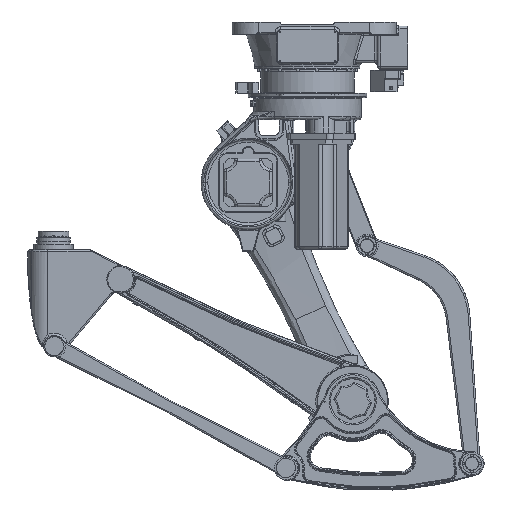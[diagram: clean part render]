
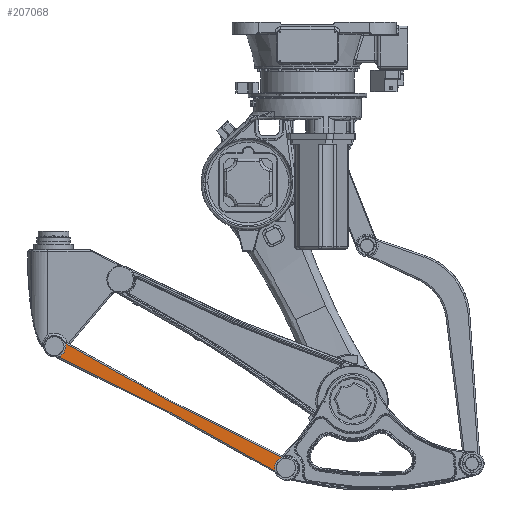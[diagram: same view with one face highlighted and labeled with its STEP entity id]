
A CAD part, front view. The second image highlights one B-rep face of the part: STEP entity #207068.
In plain terms, the highlighted planar face has unit normal (0, -1, 0) as drawn and (-0.004, -1, 0) by its records, which use the part's own axes.
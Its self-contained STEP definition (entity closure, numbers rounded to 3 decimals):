
#2742 = FACE_OUTER_BOUND ( 'NONE', #125656, .T. ) ;
#4308 = VERTEX_POINT ( 'NONE', #4400 ) ;
#4382 = EDGE_CURVE ( 'NONE', #24886, #4308, #148706, .T. ) ;
#4400 = CARTESIAN_POINT ( 'NONE',  ( -85.951, -42.054, -1431.203 ) ) ;
#6528 = CARTESIAN_POINT ( 'NONE',  ( -980.677, -38.447, -1272.64 ) ) ;
#8433 = CARTESIAN_POINT ( 'NONE',  ( -93.325, -42.024, -1438.471 ) ) ;
#10571 = CARTESIAN_POINT ( 'NONE',  ( -97.231, -42.008, -1484.914 ) ) ;
#11865 = CARTESIAN_POINT ( 'NONE',  ( -85.951, -42.054, -1431.203 ) ) ;
#24886 = VERTEX_POINT ( 'NONE', #6528 ) ;
#29128 = CARTESIAN_POINT ( 'NONE',  ( -974.214, -38.473, -1297.375 ) ) ;
#31264 = CARTESIAN_POINT ( 'NONE',  ( -974.258, -38.473, -1292.173 ) ) ;
#33833 = CARTESIAN_POINT ( 'NONE',  ( -990.549, -38.407, -1328.611 ) ) ;
#39781 = CARTESIAN_POINT ( 'NONE',  ( -87.998, -42.046, -1432.805 ) ) ;
#42495 = CARTESIAN_POINT ( 'NONE',  ( -243.565, -41.418, -1453.44 ) ) ;
#42996 = CARTESIAN_POINT ( 'NONE',  ( -98.391, -42.004, -1482.601 ) ) ;
#44039 = CARTESIAN_POINT ( 'NONE',  ( -100.479, -41.995, -1452.209 ) ) ;
#45294 = CARTESIAN_POINT ( 'NONE',  ( -988.5, -38.416, -1327.008 ) ) ;
#49976 = CARTESIAN_POINT ( 'NONE',  ( -27.274, -42.29, -1470.437 ) ) ;
#55884 = EDGE_CURVE ( 'NONE', #58698, #4308, #137372, .T. ) ;
#58134 = CARTESIAN_POINT ( 'NONE',  ( -85.951, -42.054, -1431.203 ) ) ;
#58698 = VERTEX_POINT ( 'NONE', #141021 ) ;
#59222 = CARTESIAN_POINT ( 'NONE',  ( -101.162, -41.993, -1454.706 ) ) ;
#59398 = CARTESIAN_POINT ( 'NONE',  ( -986.614, -38.423, -1325.232 ) ) ;
#60497 = CARTESIAN_POINT ( 'NONE',  ( -832.965, -39.043, -1306.33 ) ) ;
#63286 = ORIENTED_EDGE ( 'NONE', *, *, #118967, .F. ) ;
#63653 = CARTESIAN_POINT ( 'NONE',  ( -975.332, -38.469, -1305.079 ) ) ;
#74335 = CARTESIAN_POINT ( 'NONE',  ( -102.246, -41.988, -1467.598 ) ) ;
#93961 = CARTESIAN_POINT ( 'NONE',  ( -983.169, -38.437, -1321.335 ) ) ;
#95022 = CARTESIAN_POINT ( 'NONE',  ( -981.638, -38.443, -1319.245 ) ) ;
#96825 = ORIENTED_EDGE ( 'NONE', *, *, #167905, .T. ) ;
#99887 = B_SPLINE_CURVE_WITH_KNOTS ( 'NONE', 3,
 ( #208042, #42495, #121527, #190715, #108453, #174500 ),
 .UNSPECIFIED., .F., .F.,
 ( 4, 2, 4 ),
 ( 0., 0.5, 1. ),
 .UNSPECIFIED. ) ;
#106818 = CARTESIAN_POINT ( 'NONE',  ( -95.859, -42.014, -1487.121 ) ) ;
#107031 = CARTESIAN_POINT ( 'NONE',  ( -386.07, -40.844, -1389.288 ) ) ;
#108453 = CARTESIAN_POINT ( 'NONE',  ( -840.262, -39.013, -1347.724 ) ) ;
#108946 = CARTESIAN_POINT ( 'NONE',  ( -102.068, -41.989, -1459.823 ) ) ;
#110009 = CARTESIAN_POINT ( 'NONE',  ( -97.532, -42.007, -1445.012 ) ) ;
#113421 = CARTESIAN_POINT ( 'NONE',  ( -979.3, -38.453, -1274.846 ) ) ;
#118967 = EDGE_CURVE ( 'NONE', #58698, #140136, #99887, .T. ) ;
#121527 = CARTESIAN_POINT ( 'NONE',  ( -392.094, -40.82, -1423.367 ) ) ;
#122010 = CARTESIAN_POINT ( 'NONE',  ( -98.657, -42.003, -1447.343 ) ) ;
#125656 = EDGE_LOOP ( 'NONE', ( #201902, #210776, #96825, #63286 ) ) ;
#126463 = CARTESIAN_POINT ( 'NONE',  ( -978.135, -38.457, -1277.161 ) ) ;
#126511 = CARTESIAN_POINT ( 'NONE',  ( -684.431, -39.641, -1336.412 ) ) ;
#129002 = PLANE ( 'NONE',  #162458 ) ;
#129654 = CARTESIAN_POINT ( 'NONE',  ( -976.014, -38.466, -1307.579 ) ) ;
#137372 = B_SPLINE_CURVE_WITH_KNOTS ( 'NONE', 3,
 ( #106818, #10571, #42996, #142528, #141441, #209602, #74335, #207466, #108946, #59222, #44039, #122010, #110009, #208533, #8433, #140364, #39781, #58134 ),
 .UNSPECIFIED., .F., .F.,
 ( 4, 2, 2, 2, 2, 2, 2, 2, 4 ),
 ( 0., 0.125, 0.25, 0.375, 0.5, 0.625, 0.75, 0.875, 1. ),
 .UNSPECIFIED. ) ;
#140136 = VERTEX_POINT ( 'NONE', #33833 ) ;
#140364 = CARTESIAN_POINT ( 'NONE',  ( -89.882, -42.038, -1434.578 ) ) ;
#141021 = CARTESIAN_POINT ( 'NONE',  ( -95.859, -42.014, -1487.121 ) ) ;
#141441 = CARTESIAN_POINT ( 'NONE',  ( -101.007, -41.993, -1475.276 ) ) ;
#141625 = CARTESIAN_POINT ( 'NONE',  ( -978.96, -38.454, -1314.785 ) ) ;
#142528 = CARTESIAN_POINT ( 'NONE',  ( -100.287, -41.996, -1477.762 ) ) ;
#145906 = CARTESIAN_POINT ( 'NONE',  ( -974.429, -38.472, -1299.957 ) ) ;
#148706 = B_SPLINE_CURVE_WITH_KNOTS ( 'NONE', 3,
 ( #175215, #60497, #126511, #107031, #192491, #11865 ),
 .UNSPECIFIED., .F., .F.,
 ( 4, 2, 4 ),
 ( 0., 0.5, 1. ),
 .UNSPECIFIED. ) ;
#157847 = CARTESIAN_POINT ( 'NONE',  ( -977.835, -38.459, -1312.451 ) ) ;
#158925 = CARTESIAN_POINT ( 'NONE',  ( -976.231, -38.465, -1282.001 ) ) ;
#161888 = B_SPLINE_CURVE_WITH_KNOTS ( 'NONE', 3,
 ( #207647, #113421, #126463, #158925, #179428, #177315, #31264, #29128, #145906, #63653, #129654, #157847, #141625, #95022, #93961, #59398, #45294, #192454 ),
 .UNSPECIFIED., .F., .F.,
 ( 4, 2, 2, 2, 2, 2, 2, 2, 4 ),
 ( 0., 0.125, 0.25, 0.375, 0.5, 0.625, 0.75, 0.875, 1. ),
 .UNSPECIFIED. ) ;
#162458 = AXIS2_PLACEMENT_3D ( 'NONE', #49976, #210181, #164685 ) ;
#164685 = DIRECTION ( 'NONE',  ( -1., 0.004, 0. ) ) ;
#167905 = EDGE_CURVE ( 'NONE', #24886, #140136, #161888, .T. ) ;
#174500 = CARTESIAN_POINT ( 'NONE',  ( -990.549, -38.407, -1328.611 ) ) ;
#175215 = CARTESIAN_POINT ( 'NONE',  ( -980.677, -38.447, -1272.64 ) ) ;
#177315 = CARTESIAN_POINT ( 'NONE',  ( -974.517, -38.472, -1289.595 ) ) ;
#179428 = CARTESIAN_POINT ( 'NONE',  ( -975.508, -38.468, -1284.489 ) ) ;
#190715 = CARTESIAN_POINT ( 'NONE',  ( -690.442, -39.617, -1370.509 ) ) ;
#192454 = CARTESIAN_POINT ( 'NONE',  ( -990.549, -38.407, -1328.611 ) ) ;
#192491 = CARTESIAN_POINT ( 'NONE',  ( -236.244, -41.448, -1412.081 ) ) ;
#201902 = ORIENTED_EDGE ( 'NONE', *, *, #55884, .T. ) ;
#207068 = ADVANCED_FACE ( 'NONE', ( #2742 ), #129002, .T. ) ;
#207466 = CARTESIAN_POINT ( 'NONE',  ( -102.285, -41.988, -1462.402 ) ) ;
#207647 = CARTESIAN_POINT ( 'NONE',  ( -980.677, -38.447, -1272.64 ) ) ;
#208042 = CARTESIAN_POINT ( 'NONE',  ( -95.859, -42.014, -1487.121 ) ) ;
#208533 = CARTESIAN_POINT ( 'NONE',  ( -94.855, -42.018, -1440.558 ) ) ;
#209602 = CARTESIAN_POINT ( 'NONE',  ( -101.99, -41.989, -1470.174 ) ) ;
#210181 = DIRECTION ( 'NONE',  ( -0.004, -1., 0. ) ) ;
#210776 = ORIENTED_EDGE ( 'NONE', *, *, #4382, .F. ) ;
